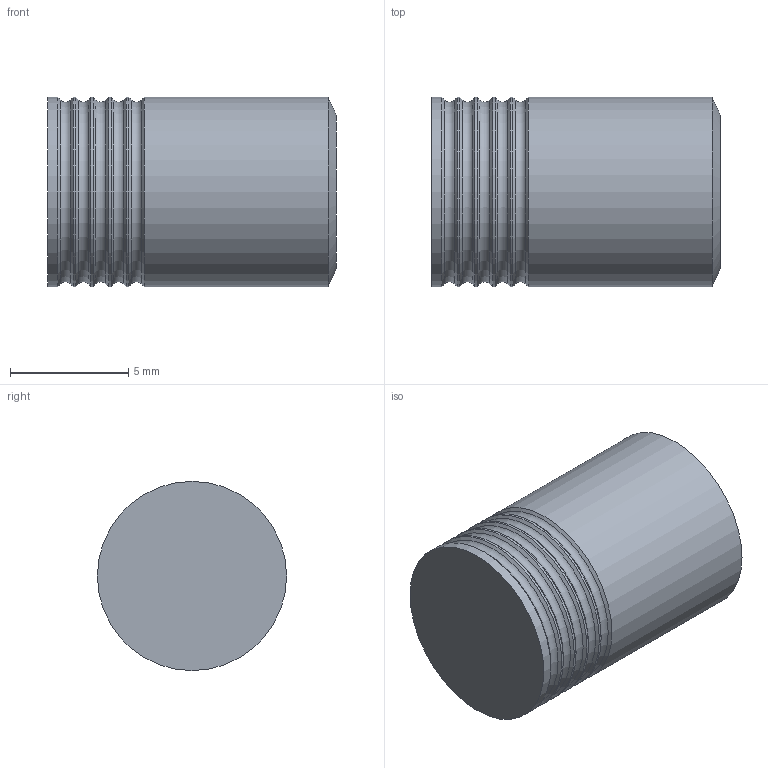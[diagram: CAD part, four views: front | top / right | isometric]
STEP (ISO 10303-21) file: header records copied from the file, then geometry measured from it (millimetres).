
FILE_DESCRIPTION(/* description */ ('LEE CHEK, 855 SERIES, REVERSE, SCREENED'),/* implementation_level */ '2;1');
FILE_NAME(/* name */ '\\ABSOLUTE\SmWork\Vernon\CCRM28030XXS.stp',/* time_stamp */ '2021-03-23T14:11:29-04:00',/* author */ ('VernonJ'),/* organization */ (''),/* preprocessor_version */ 'ST-DEVELOPER v18',/* originating_system */ 'Autodesk Inventor 2020',/* authorisation */ '');
FILE_SCHEMA (('AUTOMOTIVE_DESIGN { 1 0 10303 214 3 1 1 }'));
Length unit declared in the file: millimetre
Products named in the file (1): CCRM28030XXS
Bounding box: 12.2 x 8 x 8 mm (x, y, z)
Volume: 599.6 mm3; surface area: 414.6 mm2
Topology: 1 solids, 1 shells, 24 faces, 78 edges, 56 vertices
Faces by surface type: cone 11, cylinder 6, torus 5, plane 2
Full cylindrical faces by diameter (mm): 8 x6
Entity records: 960 total; most frequent: DIRECTION 189, CARTESIAN_POINT 159, ORIENTED_EDGE 156, AXIS2_PLACEMENT_3D 86, EDGE_CURVE 78, CIRCLE 61, VERTEX_POINT 56, FACE_OUTER_BOUND 24
